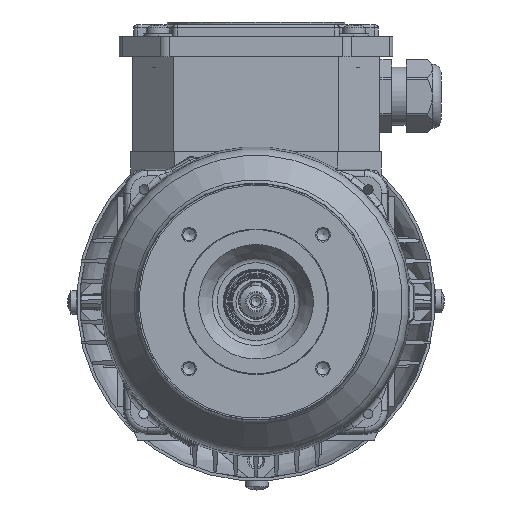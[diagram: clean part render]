
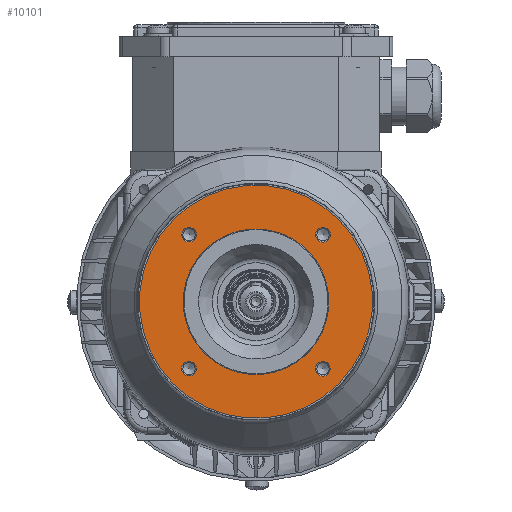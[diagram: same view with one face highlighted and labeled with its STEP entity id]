
A CAD part, front view. The second image highlights one B-rep face of the part: STEP entity #10101.
In plain terms, the highlighted planar face has unit normal (0, -1, 0).
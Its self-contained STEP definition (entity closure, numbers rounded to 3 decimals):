
#5936=FACE_BOUND('',#16650,.T.);
#5937=FACE_BOUND('',#16651,.T.);
#5938=FACE_BOUND('',#16652,.T.);
#5939=FACE_BOUND('',#16653,.T.);
#5940=FACE_BOUND('',#16654,.T.);
#5941=FACE_BOUND('',#16655,.T.);
#10101=ADVANCED_FACE('',(#5936,#5937,#5938,#5939,#5940,#5941),#12000,.T.);
#12000=PLANE('',#54800);
#16650=EDGE_LOOP('',(#26920));
#16651=EDGE_LOOP('',(#26921));
#16652=EDGE_LOOP('',(#26922));
#16653=EDGE_LOOP('',(#26923));
#16654=EDGE_LOOP('',(#26924));
#16655=EDGE_LOOP('',(#26925));
#26920=ORIENTED_EDGE('',*,*,#40254,.T.);
#26921=ORIENTED_EDGE('',*,*,#40255,.T.);
#26922=ORIENTED_EDGE('',*,*,#40256,.T.);
#26923=ORIENTED_EDGE('',*,*,#40257,.T.);
#26924=ORIENTED_EDGE('',*,*,#40258,.T.);
#26925=ORIENTED_EDGE('',*,*,#40259,.T.);
#34362=VERTEX_POINT('',#83291);
#34363=VERTEX_POINT('',#83293);
#34364=VERTEX_POINT('',#83295);
#34365=VERTEX_POINT('',#83297);
#34366=VERTEX_POINT('',#83299);
#34367=VERTEX_POINT('',#83301);
#40254=EDGE_CURVE('',#34362,#34362,#50011,.T.);
#40255=EDGE_CURVE('',#34363,#34363,#50012,.T.);
#40256=EDGE_CURVE('',#34364,#34364,#50013,.T.);
#40257=EDGE_CURVE('',#34365,#34365,#50014,.T.);
#40258=EDGE_CURVE('',#34366,#34366,#50015,.T.);
#40259=EDGE_CURVE('',#34367,#34367,#50016,.T.);
#50011=CIRCLE('',#54794,2.5);
#50012=CIRCLE('',#54795,2.5);
#50013=CIRCLE('',#54796,2.5);
#50014=CIRCLE('',#54797,2.5);
#50015=CIRCLE('',#54798,25.);
#50016=CIRCLE('',#54799,40.);
#54794=AXIS2_PLACEMENT_3D('',#83290,#65240,#65241);
#54795=AXIS2_PLACEMENT_3D('',#83292,#65242,#65243);
#54796=AXIS2_PLACEMENT_3D('',#83294,#65244,#65245);
#54797=AXIS2_PLACEMENT_3D('',#83296,#65246,#65247);
#54798=AXIS2_PLACEMENT_3D('',#83298,#65248,#65249);
#54799=AXIS2_PLACEMENT_3D('',#83300,#65250,#65251);
#54800=AXIS2_PLACEMENT_3D('',#83302,#65252,#65253);
#65240=DIRECTION('',(0.,1.,0.));
#65241=DIRECTION('',(-0.707,0.,0.708));
#65242=DIRECTION('',(0.,1.,0.));
#65243=DIRECTION('',(-0.707,0.,0.708));
#65244=DIRECTION('',(0.,1.,0.));
#65245=DIRECTION('',(-0.707,0.,0.708));
#65246=DIRECTION('',(0.,1.,0.));
#65247=DIRECTION('',(-0.707,0.,0.708));
#65248=DIRECTION('',(0.,1.,0.));
#65249=DIRECTION('',(0.707,0.,-0.708));
#65250=DIRECTION('',(0.,-1.,0.));
#65251=DIRECTION('',(0.707,0.,-0.708));
#65252=DIRECTION('',(0.,-1.,0.));
#65253=DIRECTION('',(-0.707,0.,0.708));
#83290=CARTESIAN_POINT('',(22.967,-42.5,-22.995));
#83291=CARTESIAN_POINT('',(21.2,-42.5,-21.226));
#83292=CARTESIAN_POINT('',(-22.995,-42.5,-22.967));
#83293=CARTESIAN_POINT('',(-24.762,-42.5,-21.198));
#83294=CARTESIAN_POINT('',(-22.967,-42.5,22.995));
#83295=CARTESIAN_POINT('',(-24.734,-42.5,24.764));
#83296=CARTESIAN_POINT('',(22.995,-42.5,22.967));
#83297=CARTESIAN_POINT('',(21.228,-42.5,24.736));
#83298=CARTESIAN_POINT('',(0.,-42.5,0.));
#83299=CARTESIAN_POINT('',(17.667,-42.5,-17.688));
#83300=CARTESIAN_POINT('',(0.,-42.5,0.));
#83301=CARTESIAN_POINT('',(28.267,-42.5,-28.302));
#83302=CARTESIAN_POINT('',(0.,-42.5,0.));
